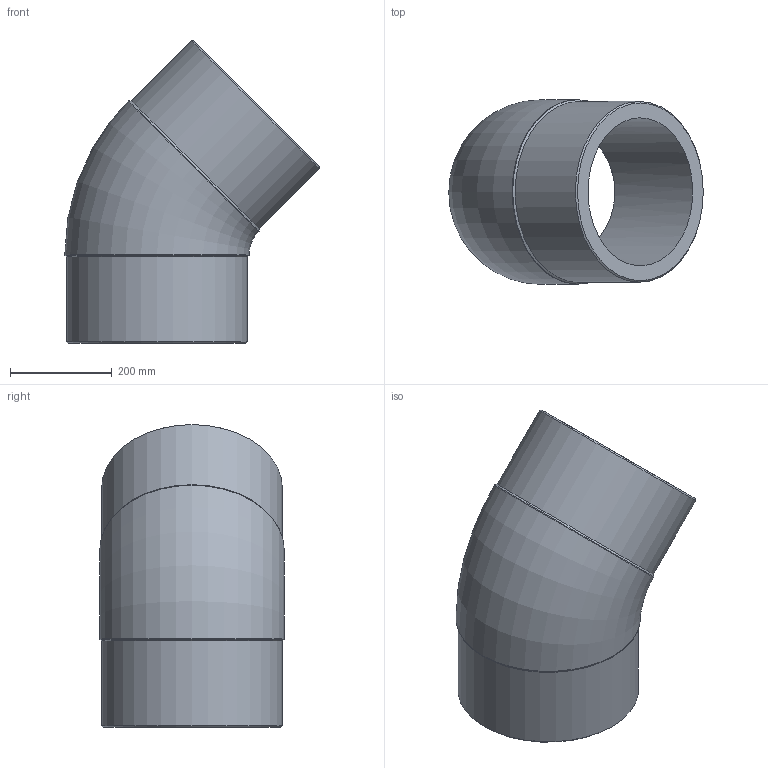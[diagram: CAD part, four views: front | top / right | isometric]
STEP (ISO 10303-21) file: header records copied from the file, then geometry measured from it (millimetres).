
FILE_DESCRIPTION(/* description */ ('Unknown'),/* implementation_level */ '2;1');
FILE_NAME(/* name */ 'G4P355C',/* time_stamp */ '2022-01-20T10:39:41+01:00',/* author */ ('Unknown'),/* organization */ ('Unknown'),/* preprocessor_version */ 'ST-DEVELOPER v18.1',/* originating_system */ 'Solid Edge',/* authorisation */ 'Unknown');
FILE_SCHEMA (('AUTOMOTIVE_DESIGN {1 0 10303 214 3 1 1}'));
Length unit declared in the file: millimetre
Products named in the file (1): G4P355C
Bounding box: 499.55 x 362 x 594.55 mm (x, y, z)
Volume: 18564682.1 mm3; surface area: 1167691.7 mm2
Topology: 1 solids, 1 shells, 14 faces, 34 edges, 22 vertices
Faces by surface type: cylinder 6, cone 4, plane 2, torus 2
Full cylindrical faces by diameter (mm): 290.6 x2, 355 x2, 362 x2
Entity records: 370 total; most frequent: CARTESIAN_POINT 70, DIRECTION 60, ORIENTED_EDGE 38, AXIS2_PLACEMENT_3D 30, EDGE_LOOP 27, FACE_BOUND 27, EDGE_CURVE 19, VERTEX_POINT 18
